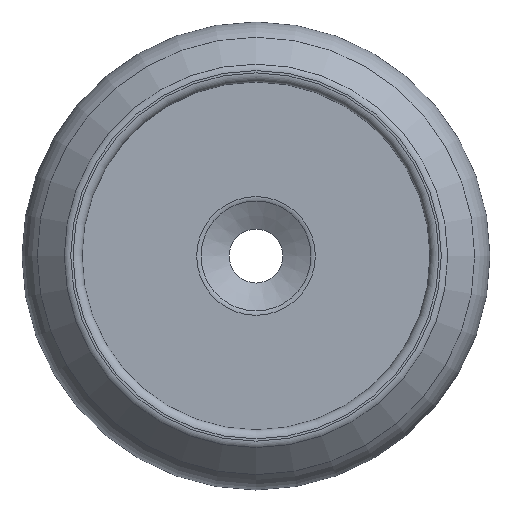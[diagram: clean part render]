
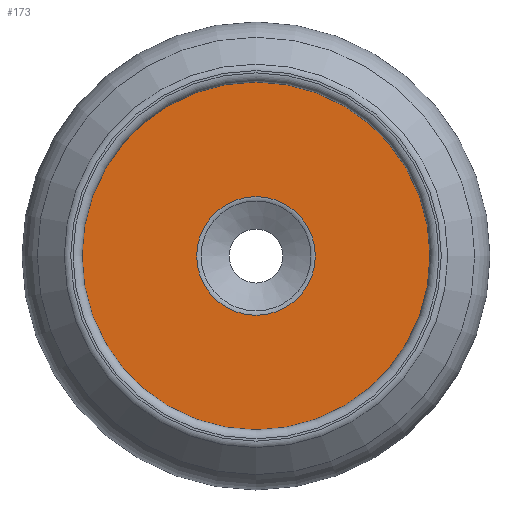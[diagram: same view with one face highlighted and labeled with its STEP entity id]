
A CAD part, top view. The second image highlights one B-rep face of the part: STEP entity #173.
In plain terms, the highlighted planar face has unit normal (0, 0, 1).
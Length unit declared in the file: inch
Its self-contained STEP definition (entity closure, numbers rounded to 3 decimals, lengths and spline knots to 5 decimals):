
#15=FACE_BOUND('',#54,.T.);
#18=PLANE('',#209);
#41=FACE_OUTER_BOUND('',#53,.T.);
#53=EDGE_LOOP('',(#139));
#54=EDGE_LOOP('',(#140));
#71=CIRCLE('',#206,0.19783);
#73=CIRCLE('',#210,0.58);
#87=VERTEX_POINT('',#311);
#89=VERTEX_POINT('',#319);
#105=EDGE_CURVE('',#87,#87,#71,.T.);
#108=EDGE_CURVE('',#89,#89,#73,.T.);
#139=ORIENTED_EDGE('',*,*,#108,.T.);
#140=ORIENTED_EDGE('',*,*,#105,.F.);
#173=ADVANCED_FACE('',(#41,#15),#18,.T.);
#206=AXIS2_PLACEMENT_3D('',#313,#252,#253);
#209=AXIS2_PLACEMENT_3D('',#318,#259,#260);
#210=AXIS2_PLACEMENT_3D('',#320,#261,#262);
#252=DIRECTION('center_axis',(0.,0.,1.));
#253=DIRECTION('ref_axis',(1.,0.,0.));
#259=DIRECTION('center_axis',(0.,0.,1.));
#260=DIRECTION('ref_axis',(1.,0.,0.));
#261=DIRECTION('center_axis',(0.,0.,1.));
#262=DIRECTION('ref_axis',(1.,0.,0.));
#311=CARTESIAN_POINT('',(-0.19783,0.,0.06));
#313=CARTESIAN_POINT('Origin',(0.,0.,0.06));
#318=CARTESIAN_POINT('Origin',(0.,0.,0.06));
#319=CARTESIAN_POINT('',(-0.58,0.,0.06));
#320=CARTESIAN_POINT('Origin',(0.,0.,0.06));
